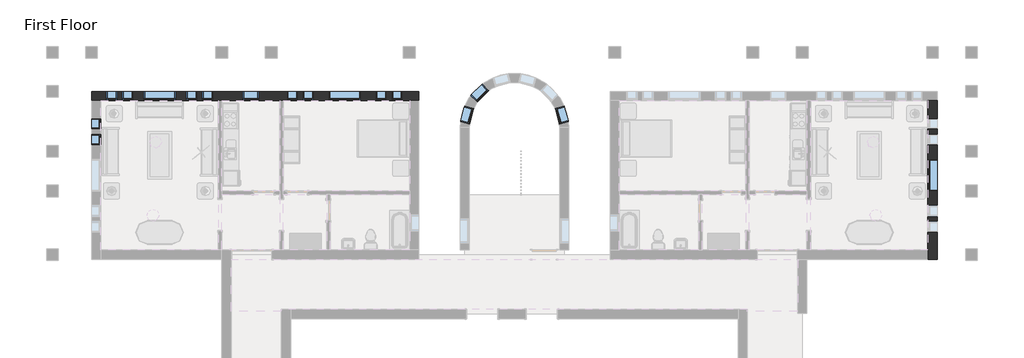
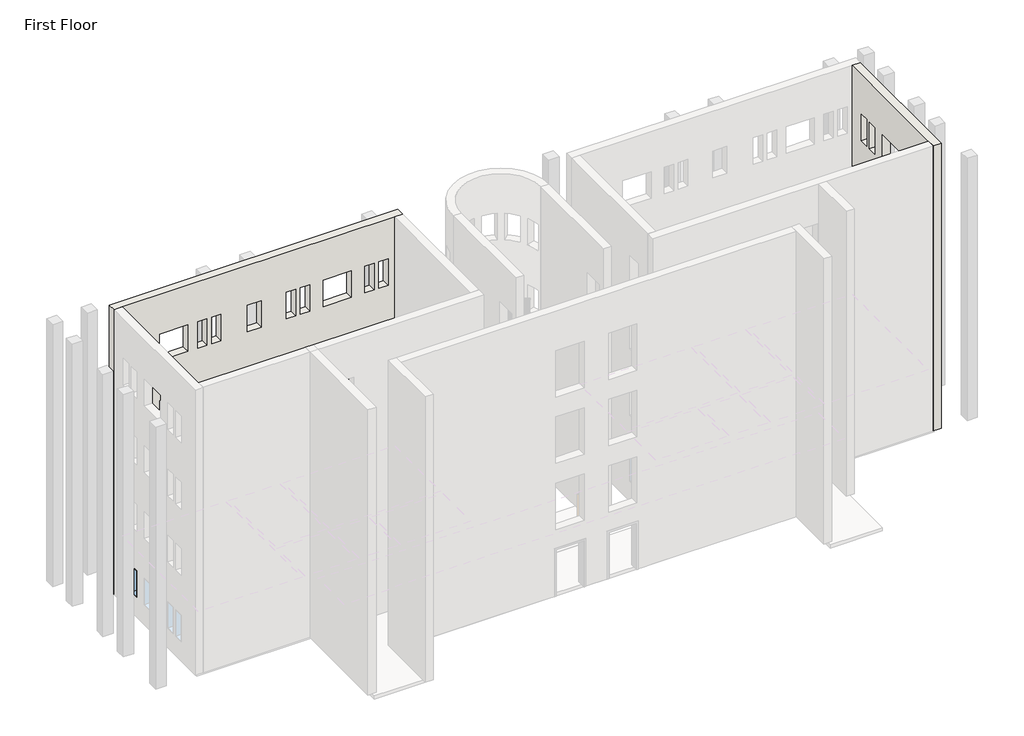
# One storey, part 14 of 22: 17 windows, 2 walls.
"""IFC4 building model written with IfcOpenShell, lengths in millimetres."""

from ifc_helpers import new_model, si_unit, origin, place, context, project, spatial, faceted_brep, transform, mapped, element, save
from components import m_fixed_0406_x_1220mm_57fee329, m_fixed_0406_x_1220mm_85c28f40, m_fixed_0610_x_1220mm_2c28ef1d, m_fixed_0610_x_1220mm_1ea27827, m_fixed_1220_x_1220mm_e08ff7af, m_fixed_1220_x_1220mm_8f5f8ad3

model = new_model("IFC4")

# Units and contexts
model_context = context("Model", 3, world=origin())
ifc_project = project(units=[si_unit("LENGTHUNIT", "METRE", prefix="MILLI")], contexts=[model_context])

# Site, building, storey
site = spatial("IfcSite", under=ifc_project)
building = spatial("IfcBuilding", under=site)
storey = spatial("IfcBuildingStorey", under=building, Name="First Floor", Elevation=0.0)

# Walls
placement = place(None, origin())
element("IfcWall", 1, ObjectType="Exterior - Brick on Mtl. Stud", at=placement, inside=storey, context=model_context, shape_type="Brep", body=[
    faceted_brep([(-3093.3416203, 2406.1188386, 0.0), (-3093.3416203, -3339.8811614, 0.0), (-3093.3416203, -3504.8811614, 0.0), (-3093.3416203, -3689.8811614, 0.0), (-3093.3416203, -3689.8811614, 13107.0), (-3093.3416203, -3339.8811614, 13107.0), (-3093.3416203, 2406.1188386, 13107.0), (-3093.3416203, -1076.8811614, 915.0), (-3093.3416203, 143.1188386, 915.0), (-3093.3416203, 143.1188386, 2135.0), (-3093.3416203, -1076.8811614, 2135.0), (-3093.3416203, 701.1188386, 915.0), (-3093.3416203, 1107.1188386, 915.0), (-3093.3416203, 1107.1188386, 2135.0), (-3093.3416203, 701.1188386, 2135.0), (-3093.3416203, 1311.1188386, 915.0), (-3093.3416203, 1717.1188386, 915.0), (-3093.3416203, 1717.1188386, 2135.0), (-3093.3416203, 1311.1188386, 2135.0), (-3093.3416203, -1634.8811614, 915.0), (-3093.3416203, -1634.8811614, 2135.0), (-3093.3416203, -2040.8811614, 2135.0), (-3093.3416203, -2040.8811614, 915.0), (-3093.3416203, -2244.8811614, 915.0), (-3093.3416203, -2244.8811614, 2135.0), (-3093.3416203, -2650.8811614, 2135.0), (-3093.3416203, -2650.8811614, 915.0), (-3093.3416203, -1634.8811614, 10059.0), (-3093.3416203, -1634.8811614, 11279.0), (-3093.3416203, -2040.8811614, 11279.0), (-3093.3416203, -2040.8811614, 10059.0), (-3093.3416203, -2244.8811614, 10059.0), (-3093.3416203, -2244.8811614, 11279.0), (-3093.3416203, -2650.8811614, 11279.0), (-3093.3416203, -2650.8811614, 10059.0), (-3093.3416203, 701.1188386, 10059.0), (-3093.3416203, 1107.1188386, 10059.0), (-3093.3416203, 1107.1188386, 11279.0), (-3093.3416203, 701.1188386, 11279.0), (-3093.3416203, 1311.1188386, 10059.0), (-3093.3416203, 1717.1188386, 10059.0), (-3093.3416203, 1717.1188386, 11279.0), (-3093.3416203, 1311.1188386, 11279.0), (-3093.3416203, -1076.8811614, 10059.0), (-3093.3416203, 143.1188386, 10059.0), (-3093.3416203, 143.1188386, 11279.0), (-3093.3416203, -1076.8811614, 11279.0), (-3093.3416203, -1634.8811614, 3963.0), (-3093.3416203, -1634.8811614, 5183.0), (-3093.3416203, -2040.8811614, 5183.0), (-3093.3416203, -2040.8811614, 3963.0), (-3093.3416203, -2244.8811614, 3963.0), (-3093.3416203, -2244.8811614, 5183.0), (-3093.3416203, -2650.8811614, 5183.0), (-3093.3416203, -2650.8811614, 3963.0), (-3093.3416203, 701.1188386, 3963.0), (-3093.3416203, 1107.1188386, 3963.0), (-3093.3416203, 1107.1188386, 5183.0), (-3093.3416203, 701.1188386, 5183.0), (-3093.3416203, 1311.1188386, 3963.0), (-3093.3416203, 1717.1188386, 3963.0), (-3093.3416203, 1717.1188386, 5183.0), (-3093.3416203, 1311.1188386, 5183.0), (-3093.3416203, -1076.8811614, 3963.0), (-3093.3416203, 143.1188386, 3963.0), (-3093.3416203, 143.1188386, 5183.0), (-3093.3416203, -1076.8811614, 5183.0), (-3093.3416203, -1634.8811614, 7011.0), (-3093.3416203, -1634.8811614, 8231.0), (-3093.3416203, -2040.8811614, 8231.0), (-3093.3416203, -2040.8811614, 7011.0), (-3093.3416203, -2244.8811614, 7011.0), (-3093.3416203, -2244.8811614, 8231.0), (-3093.3416203, -2650.8811614, 8231.0), (-3093.3416203, -2650.8811614, 7011.0), (-3093.3416203, 701.1188386, 7011.0), (-3093.3416203, 1107.1188386, 7011.0), (-3093.3416203, 1107.1188386, 8231.0), (-3093.3416203, 701.1188386, 8231.0), (-3093.3416203, 1311.1188386, 7011.0), (-3093.3416203, 1717.1188386, 7011.0), (-3093.3416203, 1717.1188386, 8231.0), (-3093.3416203, 1311.1188386, 8231.0), (-3093.3416203, -1076.8811614, 7011.0), (-3093.3416203, 143.1188386, 7011.0), (-3093.3416203, 143.1188386, 8231.0), (-3093.3416203, -1076.8811614, 8231.0), (-2743.3416203, 2406.1188386, 0.0), (-2743.3416203, 2406.1188386, 13107.0), (-2743.3416203, -3689.8811614, 13107.0), (-2743.3416203, -3689.8811614, 0.0), (-2743.3416203, -3504.8811614, 0.0), (-2743.3416203, -1076.8811614, 915.0), (-2743.3416203, -1076.8811614, 2135.0), (-2743.3416203, 143.1188386, 2135.0), (-2743.3416203, 143.1188386, 915.0), (-2743.3416203, 701.1188386, 915.0), (-2743.3416203, 701.1188386, 2135.0), (-2743.3416203, 1107.1188386, 2135.0), (-2743.3416203, 1107.1188386, 915.0), (-2743.3416203, 1311.1188386, 915.0), (-2743.3416203, 1311.1188386, 2135.0), (-2743.3416203, 1717.1188386, 2135.0), (-2743.3416203, 1717.1188386, 915.0), (-2743.3416203, -1634.8811614, 915.0), (-2743.3416203, -2040.8811614, 915.0), (-2743.3416203, -2040.8811614, 2135.0), (-2743.3416203, -1634.8811614, 2135.0), (-2743.3416203, -2244.8811614, 915.0), (-2743.3416203, -2650.8811614, 915.0), (-2743.3416203, -2650.8811614, 2135.0), (-2743.3416203, -2244.8811614, 2135.0), (-2743.3416203, -1634.8811614, 10059.0), (-2743.3416203, -2040.8811614, 10059.0), (-2743.3416203, -2040.8811614, 11279.0), (-2743.3416203, -1634.8811614, 11279.0), (-2743.3416203, -2244.8811614, 10059.0), (-2743.3416203, -2650.8811614, 10059.0), (-2743.3416203, -2650.8811614, 11279.0), (-2743.3416203, -2244.8811614, 11279.0), (-2743.3416203, 701.1188386, 10059.0), (-2743.3416203, 701.1188386, 11279.0), (-2743.3416203, 1107.1188386, 11279.0), (-2743.3416203, 1107.1188386, 10059.0), (-2743.3416203, 1311.1188386, 10059.0), (-2743.3416203, 1311.1188386, 11279.0), (-2743.3416203, 1717.1188386, 11279.0), (-2743.3416203, 1717.1188386, 10059.0), (-2743.3416203, -1076.8811614, 10059.0), (-2743.3416203, -1076.8811614, 11279.0), (-2743.3416203, 143.1188386, 11279.0), (-2743.3416203, 143.1188386, 10059.0), (-2743.3416203, -1634.8811614, 3963.0), (-2743.3416203, -2040.8811614, 3963.0), (-2743.3416203, -2040.8811614, 5183.0), (-2743.3416203, -1634.8811614, 5183.0), (-2743.3416203, -2244.8811614, 3963.0), (-2743.3416203, -2650.8811614, 3963.0), (-2743.3416203, -2650.8811614, 5183.0), (-2743.3416203, -2244.8811614, 5183.0), (-2743.3416203, 701.1188386, 3963.0), (-2743.3416203, 701.1188386, 5183.0), (-2743.3416203, 1107.1188386, 5183.0), (-2743.3416203, 1107.1188386, 3963.0), (-2743.3416203, 1311.1188386, 3963.0), (-2743.3416203, 1311.1188386, 5183.0), (-2743.3416203, 1717.1188386, 5183.0), (-2743.3416203, 1717.1188386, 3963.0), (-2743.3416203, -1076.8811614, 3963.0), (-2743.3416203, -1076.8811614, 5183.0), (-2743.3416203, 143.1188386, 5183.0), (-2743.3416203, 143.1188386, 3963.0), (-2743.3416203, -1634.8811614, 7011.0), (-2743.3416203, -2040.8811614, 7011.0), (-2743.3416203, -2040.8811614, 8231.0), (-2743.3416203, -1634.8811614, 8231.0), (-2743.3416203, -2244.8811614, 7011.0), (-2743.3416203, -2650.8811614, 7011.0), (-2743.3416203, -2650.8811614, 8231.0), (-2743.3416203, -2244.8811614, 8231.0), (-2743.3416203, 701.1188386, 7011.0), (-2743.3416203, 701.1188386, 8231.0), (-2743.3416203, 1107.1188386, 8231.0), (-2743.3416203, 1107.1188386, 7011.0), (-2743.3416203, 1311.1188386, 7011.0), (-2743.3416203, 1311.1188386, 8231.0), (-2743.3416203, 1717.1188386, 8231.0), (-2743.3416203, 1717.1188386, 7011.0), (-2743.3416203, -1076.8811614, 7011.0), (-2743.3416203, -1076.8811614, 8231.0), (-2743.3416203, 143.1188386, 8231.0), (-2743.3416203, 143.1188386, 7011.0), (-2928.3416203, -3689.8811614, 0.0), (-2928.3416203, 2406.1188386, 0.0), (-2928.3416203, -3504.8811614, 0.0)], [[[0, 1, 2, 3, 4, 5, 6], [7, 8, 9, 10], [11, 12, 13, 14], [15, 16, 17, 18], [19, 20, 21, 22], [23, 24, 25, 26], [27, 28, 29, 30], [31, 32, 33, 34], [35, 36, 37, 38], [39, 40, 41, 42], [43, 44, 45, 46], [47, 48, 49, 50], [51, 52, 53, 54], [55, 56, 57, 58], [59, 60, 61, 62], [63, 64, 65, 66], [67, 68, 69, 70], [71, 72, 73, 74], [75, 76, 77, 78], [79, 80, 81, 82], [83, 84, 85, 86]], [[87, 88, 89, 90, 91], [92, 93, 94, 95], [96, 97, 98, 99], [100, 101, 102, 103], [104, 105, 106, 107], [108, 109, 110, 111], [112, 113, 114, 115], [116, 117, 118, 119], [120, 121, 122, 123], [124, 125, 126, 127], [128, 129, 130, 131], [132, 133, 134, 135], [136, 137, 138, 139], [140, 141, 142, 143], [144, 145, 146, 147], [148, 149, 150, 151], [152, 153, 154, 155], [156, 157, 158, 159], [160, 161, 162, 163], [164, 165, 166, 167], [168, 169, 170, 171]], [[6, 5, 4, 89, 88]], [[93, 92, 7, 10]], [[94, 93, 10, 9]], [[95, 94, 9, 8]], [[92, 95, 8, 7]], [[97, 96, 11, 14]], [[98, 97, 14, 13]], [[99, 98, 13, 12]], [[96, 99, 12, 11]], [[101, 100, 15, 18]], [[102, 101, 18, 17]], [[103, 102, 17, 16]], [[100, 103, 16, 15]], [[20, 19, 104, 107]], [[21, 20, 107, 106]], [[22, 21, 106, 105]], [[19, 22, 105, 104]], [[24, 23, 108, 111]], [[25, 24, 111, 110]], [[26, 25, 110, 109]], [[23, 26, 109, 108]], [[28, 27, 112, 115]], [[29, 28, 115, 114]], [[30, 29, 114, 113]], [[27, 30, 113, 112]], [[32, 31, 116, 119]], [[33, 32, 119, 118]], [[34, 33, 118, 117]], [[31, 34, 117, 116]], [[121, 120, 35, 38]], [[122, 121, 38, 37]], [[123, 122, 37, 36]], [[120, 123, 36, 35]], [[125, 124, 39, 42]], [[126, 125, 42, 41]], [[127, 126, 41, 40]], [[124, 127, 40, 39]], [[129, 128, 43, 46]], [[130, 129, 46, 45]], [[131, 130, 45, 44]], [[128, 131, 44, 43]], [[48, 47, 132, 135]], [[49, 48, 135, 134]], [[50, 49, 134, 133]], [[47, 50, 133, 132]], [[52, 51, 136, 139]], [[53, 52, 139, 138]], [[54, 53, 138, 137]], [[51, 54, 137, 136]], [[141, 140, 55, 58]], [[142, 141, 58, 57]], [[143, 142, 57, 56]], [[140, 143, 56, 55]], [[145, 144, 59, 62]], [[146, 145, 62, 61]], [[147, 146, 61, 60]], [[144, 147, 60, 59]], [[149, 148, 63, 66]], [[150, 149, 66, 65]], [[151, 150, 65, 64]], [[148, 151, 64, 63]], [[68, 67, 152, 155]], [[69, 68, 155, 154]], [[70, 69, 154, 153]], [[67, 70, 153, 152]], [[72, 71, 156, 159]], [[73, 72, 159, 158]], [[74, 73, 158, 157]], [[71, 74, 157, 156]], [[161, 160, 75, 78]], [[162, 161, 78, 77]], [[163, 162, 77, 76]], [[160, 163, 76, 75]], [[165, 164, 79, 82]], [[166, 165, 82, 81]], [[167, 166, 81, 80]], [[164, 167, 80, 79]], [[169, 168, 83, 86]], [[170, 169, 86, 85]], [[171, 170, 85, 84]], [[168, 171, 84, 83]], [[4, 3, 172, 90, 89]], [[0, 6, 88, 87, 173]], [[173, 87, 91, 174]], [[3, 2, 174, 172]], [[174, 91, 90, 172]], [[2, 1, 0, 173, 174]]]),
])
element("IfcWall", 2, ObjectType="Exterior - Brick on Mtl. Stud", at=placement, inside=storey, context=model_context, shape_type="Brep", body=[
    faceted_brep([(-22628.8416203, 2756.1188386, 0.0), (-22813.8416203, 2756.1188386, 0.0), (-34985.8416203, 2756.1188386, 0.0), (-35170.8416203, 2756.1188386, 0.0), (-35170.8416203, 2756.1188386, 13107.0), (-22628.8416203, 2756.1188386, 13107.0), (-29376.9916203, 2756.1188386, 915.0), (-28766.9916203, 2756.1188386, 915.0), (-28766.9916203, 2756.1188386, 2135.0), (-29376.9916203, 2756.1188386, 2135.0), (-26080.8416203, 2756.1188386, 915.0), (-24860.8416203, 2756.1188386, 915.0), (-24860.8416203, 2756.1188386, 2135.0), (-26080.8416203, 2756.1188386, 2135.0), (-33178.7166203, 2756.1188386, 915.0), (-31958.7166203, 2756.1188386, 915.0), (-31958.7166203, 2756.1188386, 2135.0), (-33178.7166203, 2756.1188386, 2135.0), (-23666.8416203, 2756.1188386, 915.0), (-23260.8416203, 2756.1188386, 915.0), (-23260.8416203, 2756.1188386, 2135.0), (-23666.8416203, 2756.1188386, 2135.0), (-24276.8416203, 2756.1188386, 915.0), (-23870.8416203, 2756.1188386, 915.0), (-23870.8416203, 2756.1188386, 2135.0), (-24276.8416203, 2756.1188386, 2135.0), (-26664.8416203, 2756.1188386, 915.0), (-26664.8416203, 2756.1188386, 2135.0), (-27070.8416203, 2756.1188386, 2135.0), (-27070.8416203, 2756.1188386, 915.0), (-27274.8416203, 2756.1188386, 915.0), (-27274.8416203, 2756.1188386, 2135.0), (-27680.8416203, 2756.1188386, 2135.0), (-27680.8416203, 2756.1188386, 915.0), (-31543.8416203, 2756.1188386, 915.0), (-31137.8416203, 2756.1188386, 915.0), (-31137.8416203, 2756.1188386, 2135.0), (-31543.8416203, 2756.1188386, 2135.0), (-30933.8416203, 2756.1188386, 915.0), (-30527.8416203, 2756.1188386, 915.0), (-30527.8416203, 2756.1188386, 2135.0), (-30933.8416203, 2756.1188386, 2135.0), (-33593.5916203, 2756.1188386, 915.0), (-33593.5916203, 2756.1188386, 2135.0), (-33999.5916203, 2756.1188386, 2135.0), (-33999.5916203, 2756.1188386, 915.0), (-34203.5916203, 2756.1188386, 915.0), (-34203.5916203, 2756.1188386, 2135.0), (-34609.5916203, 2756.1188386, 2135.0), (-34609.5916203, 2756.1188386, 915.0), (-33593.5916203, 2756.1188386, 10059.0), (-33593.5916203, 2756.1188386, 11279.0), (-33999.5916203, 2756.1188386, 11279.0), (-33999.5916203, 2756.1188386, 10059.0), (-34203.5916203, 2756.1188386, 10059.0), (-34203.5916203, 2756.1188386, 11279.0), (-34609.5916203, 2756.1188386, 11279.0), (-34609.5916203, 2756.1188386, 10059.0), (-31543.8416203, 2756.1188386, 10059.0), (-31137.8416203, 2756.1188386, 10059.0), (-31137.8416203, 2756.1188386, 11279.0), (-31543.8416203, 2756.1188386, 11279.0), (-30933.8416203, 2756.1188386, 10059.0), (-30527.8416203, 2756.1188386, 10059.0), (-30527.8416203, 2756.1188386, 11279.0), (-30933.8416203, 2756.1188386, 11279.0), (-26664.8416203, 2756.1188386, 10059.0), (-26664.8416203, 2756.1188386, 11279.0), (-27070.8416203, 2756.1188386, 11279.0), (-27070.8416203, 2756.1188386, 10059.0), (-27274.8416203, 2756.1188386, 10059.0), (-27274.8416203, 2756.1188386, 11279.0), (-27680.8416203, 2756.1188386, 11279.0), (-27680.8416203, 2756.1188386, 10059.0), (-24276.8416203, 2756.1188386, 10059.0), (-23870.8416203, 2756.1188386, 10059.0), (-23870.8416203, 2756.1188386, 11279.0), (-24276.8416203, 2756.1188386, 11279.0), (-23666.8416203, 2756.1188386, 10059.0), (-23260.8416203, 2756.1188386, 10059.0), (-23260.8416203, 2756.1188386, 11279.0), (-23666.8416203, 2756.1188386, 11279.0), (-33178.7166203, 2756.1188386, 10059.0), (-31958.7166203, 2756.1188386, 10059.0), (-31958.7166203, 2756.1188386, 11279.0), (-33178.7166203, 2756.1188386, 11279.0), (-26080.8416203, 2756.1188386, 10059.0), (-24860.8416203, 2756.1188386, 10059.0), (-24860.8416203, 2756.1188386, 11279.0), (-26080.8416203, 2756.1188386, 11279.0), (-29376.9916203, 2756.1188386, 10059.0), (-28766.9916203, 2756.1188386, 10059.0), (-28766.9916203, 2756.1188386, 11279.0), (-29376.9916203, 2756.1188386, 11279.0), (-33593.5916203, 2756.1188386, 3963.0), (-33593.5916203, 2756.1188386, 5183.0), (-33999.5916203, 2756.1188386, 5183.0), (-33999.5916203, 2756.1188386, 3963.0), (-34203.5916203, 2756.1188386, 3963.0), (-34203.5916203, 2756.1188386, 5183.0), (-34609.5916203, 2756.1188386, 5183.0), (-34609.5916203, 2756.1188386, 3963.0), (-31543.8416203, 2756.1188386, 3963.0), (-31137.8416203, 2756.1188386, 3963.0), (-31137.8416203, 2756.1188386, 5183.0), (-31543.8416203, 2756.1188386, 5183.0), (-30933.8416203, 2756.1188386, 3963.0), (-30527.8416203, 2756.1188386, 3963.0), (-30527.8416203, 2756.1188386, 5183.0), (-30933.8416203, 2756.1188386, 5183.0), (-26664.8416203, 2756.1188386, 3963.0), (-26664.8416203, 2756.1188386, 5183.0), (-27070.8416203, 2756.1188386, 5183.0), (-27070.8416203, 2756.1188386, 3963.0), (-27274.8416203, 2756.1188386, 3963.0), (-27274.8416203, 2756.1188386, 5183.0), (-27680.8416203, 2756.1188386, 5183.0), (-27680.8416203, 2756.1188386, 3963.0), (-24276.8416203, 2756.1188386, 3963.0), (-23870.8416203, 2756.1188386, 3963.0), (-23870.8416203, 2756.1188386, 5183.0), (-24276.8416203, 2756.1188386, 5183.0), (-23666.8416203, 2756.1188386, 3963.0), (-23260.8416203, 2756.1188386, 3963.0), (-23260.8416203, 2756.1188386, 5183.0), (-23666.8416203, 2756.1188386, 5183.0), (-33178.7166203, 2756.1188386, 3963.0), (-31958.7166203, 2756.1188386, 3963.0), (-31958.7166203, 2756.1188386, 5183.0), (-33178.7166203, 2756.1188386, 5183.0), (-26080.8416203, 2756.1188386, 3963.0), (-24860.8416203, 2756.1188386, 3963.0), (-24860.8416203, 2756.1188386, 5183.0), (-26080.8416203, 2756.1188386, 5183.0), (-29376.9916203, 2756.1188386, 3963.0), (-28766.9916203, 2756.1188386, 3963.0), (-28766.9916203, 2756.1188386, 5183.0), (-29376.9916203, 2756.1188386, 5183.0), (-33593.5916203, 2756.1188386, 7011.0), (-33593.5916203, 2756.1188386, 8231.0), (-33999.5916203, 2756.1188386, 8231.0), (-33999.5916203, 2756.1188386, 7011.0), (-34203.5916203, 2756.1188386, 7011.0), (-34203.5916203, 2756.1188386, 8231.0), (-34609.5916203, 2756.1188386, 8231.0), (-34609.5916203, 2756.1188386, 7011.0), (-31543.8416203, 2756.1188386, 7011.0), (-31137.8416203, 2756.1188386, 7011.0), (-31137.8416203, 2756.1188386, 8231.0), (-31543.8416203, 2756.1188386, 8231.0), (-30933.8416203, 2756.1188386, 7011.0), (-30527.8416203, 2756.1188386, 7011.0), (-30527.8416203, 2756.1188386, 8231.0), (-30933.8416203, 2756.1188386, 8231.0), (-26664.8416203, 2756.1188386, 7011.0), (-26664.8416203, 2756.1188386, 8231.0), (-27070.8416203, 2756.1188386, 8231.0), (-27070.8416203, 2756.1188386, 7011.0), (-27274.8416203, 2756.1188386, 7011.0), (-27274.8416203, 2756.1188386, 8231.0), (-27680.8416203, 2756.1188386, 8231.0), (-27680.8416203, 2756.1188386, 7011.0), (-24276.8416203, 2756.1188386, 7011.0), (-23870.8416203, 2756.1188386, 7011.0), (-23870.8416203, 2756.1188386, 8231.0), (-24276.8416203, 2756.1188386, 8231.0), (-23666.8416203, 2756.1188386, 7011.0), (-23260.8416203, 2756.1188386, 7011.0), (-23260.8416203, 2756.1188386, 8231.0), (-23666.8416203, 2756.1188386, 8231.0), (-33178.7166203, 2756.1188386, 7011.0), (-31958.7166203, 2756.1188386, 7011.0), (-31958.7166203, 2756.1188386, 8231.0), (-33178.7166203, 2756.1188386, 8231.0), (-26080.8416203, 2756.1188386, 7011.0), (-24860.8416203, 2756.1188386, 7011.0), (-24860.8416203, 2756.1188386, 8231.0), (-26080.8416203, 2756.1188386, 8231.0), (-29376.9916203, 2756.1188386, 7011.0), (-28766.9916203, 2756.1188386, 7011.0), (-28766.9916203, 2756.1188386, 8231.0), (-29376.9916203, 2756.1188386, 8231.0), (-22628.8416203, 2406.1188386, 0.0), (-22628.8416203, 2406.1188386, 13107.0), (-22978.8416203, 2406.1188386, 13107.0), (-34820.8416203, 2406.1188386, 13107.0), (-35170.8416203, 2406.1188386, 13107.0), (-35170.8416203, 2406.1188386, 0.0), (-34985.8416203, 2406.1188386, 0.0), (-34820.8416203, 2406.1188386, 0.0), (-30316.5916203, 2406.1188386, 0.0), (-30181.0916203, 2406.1188386, 0.0), (-27962.8416203, 2406.1188386, 0.0), (-27827.3416203, 2406.1188386, 0.0), (-22978.8416203, 2406.1188386, 0.0), (-22813.8416203, 2406.1188386, 0.0), (-29376.9916203, 2406.1188386, 915.0), (-29376.9916203, 2406.1188386, 2135.0), (-28766.9916203, 2406.1188386, 2135.0), (-28766.9916203, 2406.1188386, 915.0), (-26080.8416203, 2406.1188386, 915.0), (-26080.8416203, 2406.1188386, 2135.0), (-24860.8416203, 2406.1188386, 2135.0), (-24860.8416203, 2406.1188386, 915.0), (-33178.7166203, 2406.1188386, 915.0), (-33178.7166203, 2406.1188386, 2135.0), (-31958.7166203, 2406.1188386, 2135.0), (-31958.7166203, 2406.1188386, 915.0), (-23666.8416203, 2406.1188386, 915.0), (-23666.8416203, 2406.1188386, 2135.0), (-23260.8416203, 2406.1188386, 2135.0), (-23260.8416203, 2406.1188386, 915.0), (-24276.8416203, 2406.1188386, 915.0), (-24276.8416203, 2406.1188386, 2135.0), (-23870.8416203, 2406.1188386, 2135.0), (-23870.8416203, 2406.1188386, 915.0), (-26664.8416203, 2406.1188386, 915.0), (-27070.8416203, 2406.1188386, 915.0), (-27070.8416203, 2406.1188386, 2135.0), (-26664.8416203, 2406.1188386, 2135.0), (-27274.8416203, 2406.1188386, 915.0), (-27680.8416203, 2406.1188386, 915.0), (-27680.8416203, 2406.1188386, 2135.0), (-27274.8416203, 2406.1188386, 2135.0), (-31543.8416203, 2406.1188386, 915.0), (-31543.8416203, 2406.1188386, 2135.0), (-31137.8416203, 2406.1188386, 2135.0), (-31137.8416203, 2406.1188386, 915.0), (-30933.8416203, 2406.1188386, 915.0), (-30933.8416203, 2406.1188386, 2135.0), (-30527.8416203, 2406.1188386, 2135.0), (-30527.8416203, 2406.1188386, 915.0), (-33593.5916203, 2406.1188386, 915.0), (-33999.5916203, 2406.1188386, 915.0), (-33999.5916203, 2406.1188386, 2135.0), (-33593.5916203, 2406.1188386, 2135.0), (-34203.5916203, 2406.1188386, 915.0), (-34609.5916203, 2406.1188386, 915.0), (-34609.5916203, 2406.1188386, 2135.0), (-34203.5916203, 2406.1188386, 2135.0), (-33593.5916203, 2406.1188386, 10059.0), (-33999.5916203, 2406.1188386, 10059.0), (-33999.5916203, 2406.1188386, 11279.0), (-33593.5916203, 2406.1188386, 11279.0), (-34203.5916203, 2406.1188386, 10059.0), (-34609.5916203, 2406.1188386, 10059.0), (-34609.5916203, 2406.1188386, 11279.0), (-34203.5916203, 2406.1188386, 11279.0), (-31543.8416203, 2406.1188386, 10059.0), (-31543.8416203, 2406.1188386, 11279.0), (-31137.8416203, 2406.1188386, 11279.0), (-31137.8416203, 2406.1188386, 10059.0), (-30933.8416203, 2406.1188386, 10059.0), (-30933.8416203, 2406.1188386, 11279.0), (-30527.8416203, 2406.1188386, 11279.0), (-30527.8416203, 2406.1188386, 10059.0), (-26664.8416203, 2406.1188386, 10059.0), (-27070.8416203, 2406.1188386, 10059.0), (-27070.8416203, 2406.1188386, 11279.0), (-26664.8416203, 2406.1188386, 11279.0), (-27274.8416203, 2406.1188386, 10059.0), (-27680.8416203, 2406.1188386, 10059.0), (-27680.8416203, 2406.1188386, 11279.0), (-27274.8416203, 2406.1188386, 11279.0), (-24276.8416203, 2406.1188386, 10059.0), (-24276.8416203, 2406.1188386, 11279.0), (-23870.8416203, 2406.1188386, 11279.0), (-23870.8416203, 2406.1188386, 10059.0), (-23666.8416203, 2406.1188386, 10059.0), (-23666.8416203, 2406.1188386, 11279.0), (-23260.8416203, 2406.1188386, 11279.0), (-23260.8416203, 2406.1188386, 10059.0), (-33178.7166203, 2406.1188386, 10059.0), (-33178.7166203, 2406.1188386, 11279.0), (-31958.7166203, 2406.1188386, 11279.0), (-31958.7166203, 2406.1188386, 10059.0), (-26080.8416203, 2406.1188386, 10059.0), (-26080.8416203, 2406.1188386, 11279.0), (-24860.8416203, 2406.1188386, 11279.0), (-24860.8416203, 2406.1188386, 10059.0), (-29376.9916203, 2406.1188386, 10059.0), (-29376.9916203, 2406.1188386, 11279.0), (-28766.9916203, 2406.1188386, 11279.0), (-28766.9916203, 2406.1188386, 10059.0), (-33593.5916203, 2406.1188386, 3963.0), (-33999.5916203, 2406.1188386, 3963.0), (-33999.5916203, 2406.1188386, 5183.0), (-33593.5916203, 2406.1188386, 5183.0), (-34203.5916203, 2406.1188386, 3963.0), (-34609.5916203, 2406.1188386, 3963.0), (-34609.5916203, 2406.1188386, 5183.0), (-34203.5916203, 2406.1188386, 5183.0), (-31543.8416203, 2406.1188386, 3963.0), (-31543.8416203, 2406.1188386, 5183.0), (-31137.8416203, 2406.1188386, 5183.0), (-31137.8416203, 2406.1188386, 3963.0), (-30933.8416203, 2406.1188386, 3963.0), (-30933.8416203, 2406.1188386, 5183.0), (-30527.8416203, 2406.1188386, 5183.0), (-30527.8416203, 2406.1188386, 3963.0), (-26664.8416203, 2406.1188386, 3963.0), (-27070.8416203, 2406.1188386, 3963.0), (-27070.8416203, 2406.1188386, 5183.0), (-26664.8416203, 2406.1188386, 5183.0), (-27274.8416203, 2406.1188386, 3963.0), (-27680.8416203, 2406.1188386, 3963.0), (-27680.8416203, 2406.1188386, 5183.0), (-27274.8416203, 2406.1188386, 5183.0), (-24276.8416203, 2406.1188386, 3963.0), (-24276.8416203, 2406.1188386, 5183.0), (-23870.8416203, 2406.1188386, 5183.0), (-23870.8416203, 2406.1188386, 3963.0), (-23666.8416203, 2406.1188386, 3963.0), (-23666.8416203, 2406.1188386, 5183.0), (-23260.8416203, 2406.1188386, 5183.0), (-23260.8416203, 2406.1188386, 3963.0), (-33178.7166203, 2406.1188386, 3963.0), (-33178.7166203, 2406.1188386, 5183.0), (-31958.7166203, 2406.1188386, 5183.0), (-31958.7166203, 2406.1188386, 3963.0), (-26080.8416203, 2406.1188386, 3963.0), (-26080.8416203, 2406.1188386, 5183.0), (-24860.8416203, 2406.1188386, 5183.0), (-24860.8416203, 2406.1188386, 3963.0), (-29376.9916203, 2406.1188386, 3963.0), (-29376.9916203, 2406.1188386, 5183.0), (-28766.9916203, 2406.1188386, 5183.0), (-28766.9916203, 2406.1188386, 3963.0), (-33593.5916203, 2406.1188386, 7011.0), (-33999.5916203, 2406.1188386, 7011.0), (-33999.5916203, 2406.1188386, 8231.0), (-33593.5916203, 2406.1188386, 8231.0), (-34203.5916203, 2406.1188386, 7011.0), (-34609.5916203, 2406.1188386, 7011.0), (-34609.5916203, 2406.1188386, 8231.0), (-34203.5916203, 2406.1188386, 8231.0), (-31543.8416203, 2406.1188386, 7011.0), (-31543.8416203, 2406.1188386, 8231.0), (-31137.8416203, 2406.1188386, 8231.0), (-31137.8416203, 2406.1188386, 7011.0), (-30933.8416203, 2406.1188386, 7011.0), (-30933.8416203, 2406.1188386, 8231.0), (-30527.8416203, 2406.1188386, 8231.0), (-30527.8416203, 2406.1188386, 7011.0), (-26664.8416203, 2406.1188386, 7011.0), (-27070.8416203, 2406.1188386, 7011.0), (-27070.8416203, 2406.1188386, 8231.0), (-26664.8416203, 2406.1188386, 8231.0), (-27274.8416203, 2406.1188386, 7011.0), (-27680.8416203, 2406.1188386, 7011.0), (-27680.8416203, 2406.1188386, 8231.0), (-27274.8416203, 2406.1188386, 8231.0), (-24276.8416203, 2406.1188386, 7011.0), (-24276.8416203, 2406.1188386, 8231.0), (-23870.8416203, 2406.1188386, 8231.0), (-23870.8416203, 2406.1188386, 7011.0), (-23666.8416203, 2406.1188386, 7011.0), (-23666.8416203, 2406.1188386, 8231.0), (-23260.8416203, 2406.1188386, 8231.0), (-23260.8416203, 2406.1188386, 7011.0), (-33178.7166203, 2406.1188386, 7011.0), (-33178.7166203, 2406.1188386, 8231.0), (-31958.7166203, 2406.1188386, 8231.0), (-31958.7166203, 2406.1188386, 7011.0), (-26080.8416203, 2406.1188386, 7011.0), (-26080.8416203, 2406.1188386, 8231.0), (-24860.8416203, 2406.1188386, 8231.0), (-24860.8416203, 2406.1188386, 7011.0), (-29376.9916203, 2406.1188386, 7011.0), (-29376.9916203, 2406.1188386, 8231.0), (-28766.9916203, 2406.1188386, 8231.0), (-28766.9916203, 2406.1188386, 7011.0), (-35170.8416203, 2571.1188386, 0.0), (-22628.8416203, 2571.1188386, 0.0), (-34985.8416203, 2571.1188386, 0.0), (-22813.8416203, 2571.1188386, 0.0)], [[[0, 1, 2, 3, 4, 5], [6, 7, 8, 9], [10, 11, 12, 13], [14, 15, 16, 17], [18, 19, 20, 21], [22, 23, 24, 25], [26, 27, 28, 29], [30, 31, 32, 33], [34, 35, 36, 37], [38, 39, 40, 41], [42, 43, 44, 45], [46, 47, 48, 49], [50, 51, 52, 53], [54, 55, 56, 57], [58, 59, 60, 61], [62, 63, 64, 65], [66, 67, 68, 69], [70, 71, 72, 73], [74, 75, 76, 77], [78, 79, 80, 81], [82, 83, 84, 85], [86, 87, 88, 89], [90, 91, 92, 93], [94, 95, 96, 97], [98, 99, 100, 101], [102, 103, 104, 105], [106, 107, 108, 109], [110, 111, 112, 113], [114, 115, 116, 117], [118, 119, 120, 121], [122, 123, 124, 125], [126, 127, 128, 129], [130, 131, 132, 133], [134, 135, 136, 137], [138, 139, 140, 141], [142, 143, 144, 145], [146, 147, 148, 149], [150, 151, 152, 153], [154, 155, 156, 157], [158, 159, 160, 161], [162, 163, 164, 165], [166, 167, 168, 169], [170, 171, 172, 173], [174, 175, 176, 177], [178, 179, 180, 181]], [[182, 183, 184, 185, 186, 187, 188, 189, 190, 191, 192, 193, 194, 195], [196, 197, 198, 199], [200, 201, 202, 203], [204, 205, 206, 207], [208, 209, 210, 211], [212, 213, 214, 215], [216, 217, 218, 219], [220, 221, 222, 223], [224, 225, 226, 227], [228, 229, 230, 231], [232, 233, 234, 235], [236, 237, 238, 239], [240, 241, 242, 243], [244, 245, 246, 247], [248, 249, 250, 251], [252, 253, 254, 255], [256, 257, 258, 259], [260, 261, 262, 263], [264, 265, 266, 267], [268, 269, 270, 271], [272, 273, 274, 275], [276, 277, 278, 279], [280, 281, 282, 283], [284, 285, 286, 287], [288, 289, 290, 291], [292, 293, 294, 295], [296, 297, 298, 299], [300, 301, 302, 303], [304, 305, 306, 307], [308, 309, 310, 311], [312, 313, 314, 315], [316, 317, 318, 319], [320, 321, 322, 323], [324, 325, 326, 327], [328, 329, 330, 331], [332, 333, 334, 335], [336, 337, 338, 339], [340, 341, 342, 343], [344, 345, 346, 347], [348, 349, 350, 351], [352, 353, 354, 355], [356, 357, 358, 359], [360, 361, 362, 363], [364, 365, 366, 367], [368, 369, 370, 371]], [[5, 4, 186, 185, 184, 183]], [[4, 3, 372, 187, 186]], [[0, 5, 183, 182, 373]], [[197, 196, 6, 9]], [[198, 197, 9, 8]], [[199, 198, 8, 7]], [[196, 199, 7, 6]], [[201, 200, 10, 13]], [[202, 201, 13, 12]], [[203, 202, 12, 11]], [[200, 203, 11, 10]], [[205, 204, 14, 17]], [[206, 205, 17, 16]], [[207, 206, 16, 15]], [[204, 207, 15, 14]], [[209, 208, 18, 21]], [[210, 209, 21, 20]], [[211, 210, 20, 19]], [[208, 211, 19, 18]], [[213, 212, 22, 25]], [[214, 213, 25, 24]], [[215, 214, 24, 23]], [[212, 215, 23, 22]], [[27, 26, 216, 219]], [[28, 27, 219, 218]], [[29, 28, 218, 217]], [[26, 29, 217, 216]], [[31, 30, 220, 223]], [[32, 31, 223, 222]], [[33, 32, 222, 221]], [[30, 33, 221, 220]], [[225, 224, 34, 37]], [[226, 225, 37, 36]], [[227, 226, 36, 35]], [[224, 227, 35, 34]], [[229, 228, 38, 41]], [[230, 229, 41, 40]], [[231, 230, 40, 39]], [[228, 231, 39, 38]], [[43, 42, 232, 235]], [[44, 43, 235, 234]], [[45, 44, 234, 233]], [[42, 45, 233, 232]], [[47, 46, 236, 239]], [[48, 47, 239, 238]], [[49, 48, 238, 237]], [[46, 49, 237, 236]], [[374, 188, 187, 372]], [[3, 2, 374, 372]], [[2, 1, 375, 374]], [[51, 50, 240, 243]], [[52, 51, 243, 242]], [[53, 52, 242, 241]], [[50, 53, 241, 240]], [[55, 54, 244, 247]], [[56, 55, 247, 246]], [[57, 56, 246, 245]], [[54, 57, 245, 244]], [[249, 248, 58, 61]], [[250, 249, 61, 60]], [[251, 250, 60, 59]], [[248, 251, 59, 58]], [[253, 252, 62, 65]], [[254, 253, 65, 64]], [[255, 254, 64, 63]], [[252, 255, 63, 62]], [[67, 66, 256, 259]], [[68, 67, 259, 258]], [[69, 68, 258, 257]], [[66, 69, 257, 256]], [[71, 70, 260, 263]], [[72, 71, 263, 262]], [[73, 72, 262, 261]], [[70, 73, 261, 260]], [[265, 264, 74, 77]], [[266, 265, 77, 76]], [[267, 266, 76, 75]], [[264, 267, 75, 74]], [[269, 268, 78, 81]], [[270, 269, 81, 80]], [[271, 270, 80, 79]], [[268, 271, 79, 78]], [[273, 272, 82, 85]], [[274, 273, 85, 84]], [[275, 274, 84, 83]], [[272, 275, 83, 82]], [[277, 276, 86, 89]], [[278, 277, 89, 88]], [[279, 278, 88, 87]], [[276, 279, 87, 86]], [[281, 280, 90, 93]], [[282, 281, 93, 92]], [[283, 282, 92, 91]], [[280, 283, 91, 90]], [[95, 94, 284, 287]], [[96, 95, 287, 286]], [[97, 96, 286, 285]], [[94, 97, 285, 284]], [[99, 98, 288, 291]], [[100, 99, 291, 290]], [[101, 100, 290, 289]], [[98, 101, 289, 288]], [[293, 292, 102, 105]], [[294, 293, 105, 104]], [[295, 294, 104, 103]], [[292, 295, 103, 102]], [[297, 296, 106, 109]], [[298, 297, 109, 108]], [[299, 298, 108, 107]], [[296, 299, 107, 106]], [[111, 110, 300, 303]], [[112, 111, 303, 302]], [[113, 112, 302, 301]], [[110, 113, 301, 300]], [[115, 114, 304, 307]], [[116, 115, 307, 306]], [[117, 116, 306, 305]], [[114, 117, 305, 304]], [[309, 308, 118, 121]], [[310, 309, 121, 120]], [[311, 310, 120, 119]], [[308, 311, 119, 118]], [[313, 312, 122, 125]], [[314, 313, 125, 124]], [[315, 314, 124, 123]], [[312, 315, 123, 122]], [[317, 316, 126, 129]], [[318, 317, 129, 128]], [[319, 318, 128, 127]], [[316, 319, 127, 126]], [[321, 320, 130, 133]], [[322, 321, 133, 132]], [[323, 322, 132, 131]], [[320, 323, 131, 130]], [[325, 324, 134, 137]], [[326, 325, 137, 136]], [[327, 326, 136, 135]], [[324, 327, 135, 134]], [[139, 138, 328, 331]], [[140, 139, 331, 330]], [[141, 140, 330, 329]], [[138, 141, 329, 328]], [[143, 142, 332, 335]], [[144, 143, 335, 334]], [[145, 144, 334, 333]], [[142, 145, 333, 332]], [[337, 336, 146, 149]], [[338, 337, 149, 148]], [[339, 338, 148, 147]], [[336, 339, 147, 146]], [[341, 340, 150, 153]], [[342, 341, 153, 152]], [[343, 342, 152, 151]], [[340, 343, 151, 150]], [[155, 154, 344, 347]], [[156, 155, 347, 346]], [[157, 156, 346, 345]], [[154, 157, 345, 344]], [[159, 158, 348, 351]], [[160, 159, 351, 350]], [[161, 160, 350, 349]], [[158, 161, 349, 348]], [[353, 352, 162, 165]], [[354, 353, 165, 164]], [[355, 354, 164, 163]], [[352, 355, 163, 162]], [[357, 356, 166, 169]], [[358, 357, 169, 168]], [[359, 358, 168, 167]], [[356, 359, 167, 166]], [[361, 360, 170, 173]], [[362, 361, 173, 172]], [[363, 362, 172, 171]], [[360, 363, 171, 170]], [[365, 364, 174, 177]], [[366, 365, 177, 176]], [[367, 366, 176, 175]], [[364, 367, 175, 174]], [[369, 368, 178, 181]], [[370, 369, 181, 180]], [[371, 370, 180, 179]], [[368, 371, 179, 178]], [[373, 182, 195, 375]], [[1, 0, 373, 375]], [[375, 195, 194, 193, 192, 191, 190, 189, 188, 374]]]),
])

# Windows
m_fixed_0406_x_1220mm_shape = m_fixed_0406_x_1220mm_57fee329(model_context)
element("IfcWindow", 3, ObjectType="M_Fixed : 0406 x 1220mm", at=placement, inside=storey, context=model_context, shape_type="MappedRepresentation", body=[
    mapped(m_fixed_0406_x_1220mm_shape, transform((-27477.8416203, 2594.1188386, 0.0), x_axis=(-1.0, 0.0, 0.0), y_axis=(0.0, -1.0, 0.0), z_axis=(0.0, 0.0, 1.0))),
])
element("IfcWindow", 4, ObjectType="M_Fixed : 0406 x 1220mm", at=placement, inside=storey, context=model_context, shape_type="MappedRepresentation", body=[
    mapped(m_fixed_0406_x_1220mm_shape, transform((-26867.8416203, 2594.1188386, 0.0), x_axis=(-1.0, 0.0, 0.0), y_axis=(0.0, -1.0, 0.0), z_axis=(0.0, 0.0, 1.0))),
])
element("IfcWindow", 5, ObjectType="M_Fixed : 0406 x 1220mm", at=placement, inside=storey, context=model_context, shape_type="MappedRepresentation", body=[
    mapped(m_fixed_0406_x_1220mm_shape, transform((-34406.5916203, 2594.1188386, 0.0), x_axis=(-1.0, 0.0, 0.0), y_axis=(0.0, -1.0, 0.0), z_axis=(0.0, 0.0, 1.0))),
])
element("IfcWindow", 6, ObjectType="M_Fixed : 0406 x 1220mm", at=placement, inside=storey, context=model_context, shape_type="MappedRepresentation", body=[
    mapped(m_fixed_0406_x_1220mm_shape, transform((-33796.5916203, 2594.1188386, 0.0), x_axis=(-1.0, 0.0, 0.0), y_axis=(0.0, -1.0, 0.0), z_axis=(0.0, 0.0, 1.0))),
])
m_fixed_0406_x_1220mm_2_shape = m_fixed_0406_x_1220mm_85c28f40(model_context)
element("IfcWindow", 7, ObjectType="M_Fixed : 0406 x 1220mm", at=placement, inside=storey, context=model_context, shape_type="MappedRepresentation", body=[
    mapped(m_fixed_0406_x_1220mm_2_shape, transform((-23463.8416203, 2594.1188386, 0.0), x_axis=(1.0, 0.0, 0.0), y_axis=(0.0, 1.0, 0.0), z_axis=(0.0, 0.0, 1.0))),
])
element("IfcWindow", 8, ObjectType="M_Fixed : 0406 x 1220mm", at=placement, inside=storey, context=model_context, shape_type="MappedRepresentation", body=[
    mapped(m_fixed_0406_x_1220mm_2_shape, transform((-24073.8416203, 2594.1188386, 0.0), x_axis=(1.0, 0.0, 0.0), y_axis=(0.0, 1.0, 0.0), z_axis=(0.0, 0.0, 1.0))),
])
element("IfcWindow", 9, ObjectType="M_Fixed : 0406 x 1220mm", at=placement, inside=storey, context=model_context, shape_type="MappedRepresentation", body=[
    mapped(m_fixed_0406_x_1220mm_2_shape, transform((-30730.8416203, 2594.1188386, 0.0), x_axis=(1.0, 0.0, 0.0), y_axis=(0.0, 1.0, 0.0), z_axis=(0.0, 0.0, 1.0))),
])
element("IfcWindow", 10, ObjectType="M_Fixed : 0406 x 1220mm", at=placement, inside=storey, context=model_context, shape_type="MappedRepresentation", body=[
    mapped(m_fixed_0406_x_1220mm_2_shape, transform((-31340.8416203, 2594.1188386, 0.0), x_axis=(1.0, 0.0, 0.0), y_axis=(0.0, 1.0, 0.0), z_axis=(0.0, 0.0, 1.0))),
])
element("IfcWindow", 11, ObjectType="M_Fixed : 0406 x 1220mm", at=placement, inside=storey, context=model_context, shape_type="MappedRepresentation", body=[
    mapped(m_fixed_0406_x_1220mm_2_shape, transform((-35008.8416203, 1514.1188386, 0.0), x_axis=(0.0, 1.0, 0.0), y_axis=(-1.0, 0.0, 0.0), z_axis=(0.0, 0.0, 1.0))),
])
element("IfcWindow", 12, ObjectType="M_Fixed : 0406 x 1220mm", at=placement, inside=storey, context=model_context, shape_type="MappedRepresentation", body=[
    mapped(m_fixed_0406_x_1220mm_2_shape, transform((-35008.8416203, 904.1188386, 0.0), x_axis=(0.0, 1.0, 0.0), y_axis=(-1.0, 0.0, 0.0), z_axis=(0.0, 0.0, 1.0))),
])
m_fixed_0610_x_1220mm_shape = m_fixed_0610_x_1220mm_2c28ef1d(model_context)
element("IfcWindow", 13, ObjectType="M_Fixed : 0610 x 1220mm", at=placement, inside=storey, context=model_context, shape_type="MappedRepresentation", body=[
    mapped(m_fixed_0610_x_1220mm_shape, transform((-20788.0201619, 1852.7146627, 0.0), x_axis=(-0.2588190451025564, -0.9659258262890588, 0.0), y_axis=(0.9659258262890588, -0.2588190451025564, 0.0), z_axis=(0.0, 0.0, 1.0))),
])
element("IfcWindow", 14, ObjectType="M_Fixed : 0610 x 1220mm", at=placement, inside=storey, context=model_context, shape_type="MappedRepresentation", body=[
    mapped(m_fixed_0610_x_1220mm_shape, transform((-20297.4243378, 2702.4515561, 0.0), x_axis=(-0.7071067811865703, -0.7071067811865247, 0.0), y_axis=(0.7071067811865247, -0.7071067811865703, 0.0), z_axis=(0.0, 0.0, 1.0))),
])
m_fixed_0610_x_1220mm_2_shape = m_fixed_0610_x_1220mm_1ea27827(model_context)
element("IfcWindow", 15, ObjectType="M_Fixed : 0610 x 1220mm", at=placement, inside=storey, context=model_context, shape_type="MappedRepresentation", body=[
    mapped(m_fixed_0610_x_1220mm_2_shape, transform((-17126.1630788, 1852.7146627, 0.0), x_axis=(0.2588190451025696, -0.9659258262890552, 0.0), y_axis=(0.9659258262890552, 0.2588190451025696, 0.0), z_axis=(0.0, 0.0, 1.0))),
])
element("IfcWindow", 16, ObjectType="M_Fixed : 0610 x 1220mm", at=placement, inside=storey, context=model_context, shape_type="MappedRepresentation", body=[
    mapped(m_fixed_0610_x_1220mm_2_shape, transform((-29071.9916203, 2594.1188386, 0.0), x_axis=(1.0, 0.0, 0.0), y_axis=(0.0, 1.0, 0.0), z_axis=(0.0, 0.0, 1.0))),
])
m_fixed_1220_x_1220mm_shape = m_fixed_1220_x_1220mm_e08ff7af(model_context)
element("IfcWindow", 17, ObjectType="M_Fixed : 1220 x 1220mm", at=placement, inside=storey, context=model_context, shape_type="MappedRepresentation", body=[
    mapped(m_fixed_1220_x_1220mm_shape, transform((-2905.3416203, -466.8811614, 0.0), x_axis=(0.0, 1.0, 0.0), y_axis=(-1.0, 0.0, 0.0), z_axis=(0.0, 0.0, 1.0))),
])
m_fixed_1220_x_1220mm_2_shape = m_fixed_1220_x_1220mm_8f5f8ad3(model_context)
element("IfcWindow", 18, ObjectType="M_Fixed : 1220 x 1220mm", at=placement, inside=storey, context=model_context, shape_type="MappedRepresentation", body=[
    mapped(m_fixed_1220_x_1220mm_2_shape, transform((-25470.8416203, 2594.1188386, 0.0), x_axis=(1.0, 0.0, 0.0), y_axis=(0.0, 1.0, 0.0), z_axis=(0.0, 0.0, 1.0))),
])
element("IfcWindow", 19, ObjectType="M_Fixed : 1220 x 1220mm", at=placement, inside=storey, context=model_context, shape_type="MappedRepresentation", body=[
    mapped(m_fixed_1220_x_1220mm_2_shape, transform((-32568.7166203, 2594.1188386, 0.0), x_axis=(1.0, 0.0, 0.0), y_axis=(0.0, 1.0, 0.0), z_axis=(0.0, 0.0, 1.0))),
])

save(model, "model.ifc")
